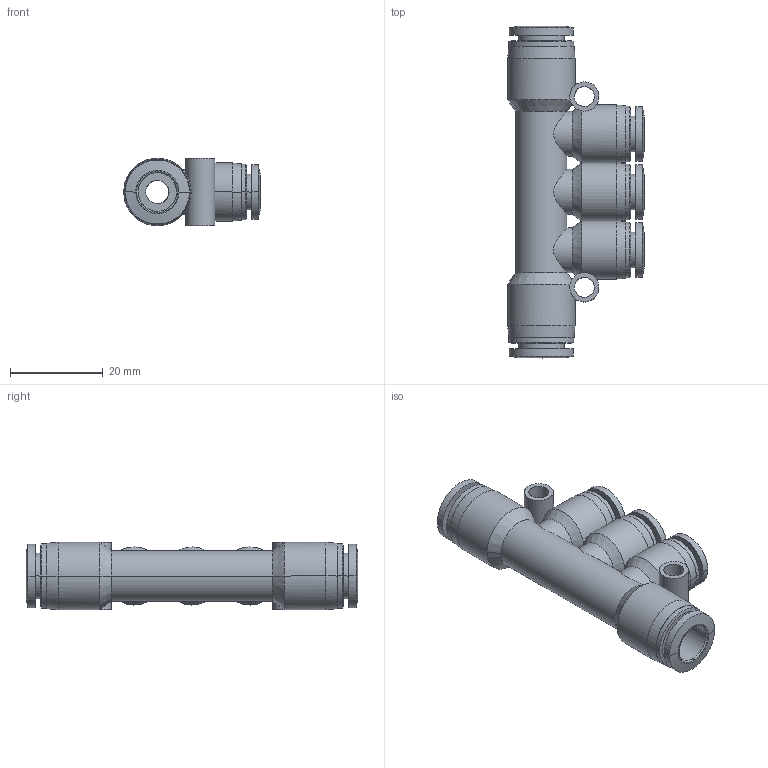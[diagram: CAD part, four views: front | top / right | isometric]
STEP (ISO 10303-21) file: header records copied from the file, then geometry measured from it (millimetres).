
FILE_DESCRIPTION (( 'STEP AP203' ), '1' );
FILE_NAME ('FRG08-06.STEP', '2020-05-12T14:58:42', ( '' ), ( '' ), 'SwSTEP 2.0', 'SolidWorks 2019', '' );
FILE_SCHEMA (( 'CONFIG_CONTROL_DESIGN' ));
Length unit declared in the file: millimetre
Products named in the file (1): FRG08-06
Bounding box: 29.4 x 71.5 x 14.5 mm (x, y, z)
Volume: 10329 mm3; surface area: 9102.8 mm2
Topology: 1 solids, 1 shells, 153 faces, 354 edges, 218 vertices
Faces by surface type: cylinder 74, cone 40, plane 29, bspline 10
Entity records: 8880 total; most frequent: CARTESIAN_POINT 5859, ORIENTED_EDGE 708, DIRECTION 406, EDGE_CURVE 354, VERTEX_POINT 218, B_SPLINE_CURVE_WITH_KNOTS 210, EDGE_LOOP 184, FACE_OUTER_BOUND 153
